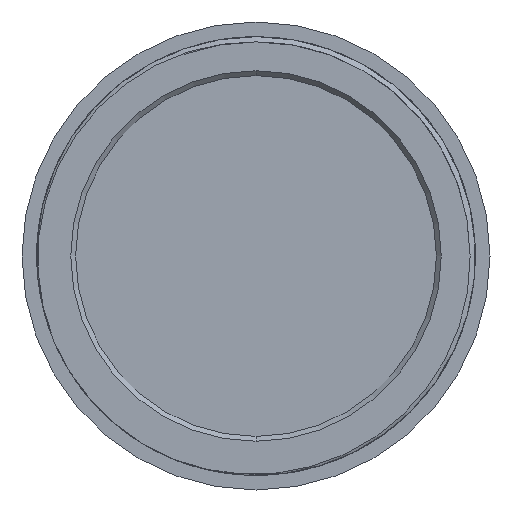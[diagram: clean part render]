
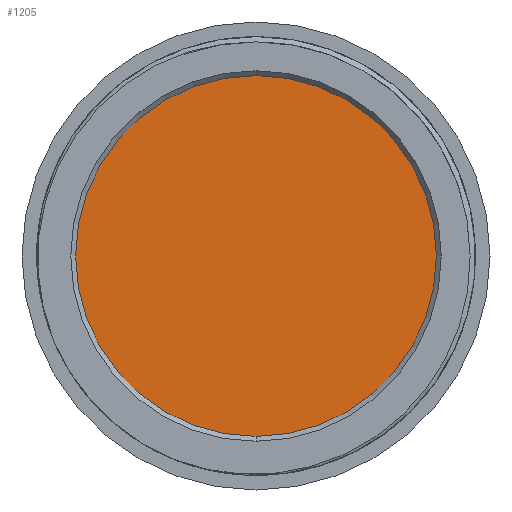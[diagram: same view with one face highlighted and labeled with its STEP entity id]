
A CAD part, front view. The second image highlights one B-rep face of the part: STEP entity #1205.
In plain terms, the highlighted planar face has unit normal (0, -1, 0).
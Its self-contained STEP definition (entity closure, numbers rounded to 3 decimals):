
#139 = AXIS2_PLACEMENT_3D ( 'NONE', #507, #2545, #1613 ) ;
#199 = PLANE ( 'NONE',  #897 ) ;
#507 = CARTESIAN_POINT ( 'NONE',  ( 0., 2.3, 0. ) ) ;
#510 = AXIS2_PLACEMENT_3D ( 'NONE', #732, #1042, #1400 ) ;
#732 = CARTESIAN_POINT ( 'NONE',  ( 0., 2.3, 0. ) ) ;
#897 = AXIS2_PLACEMENT_3D ( 'NONE', #2652, #2436, #1080 ) ;
#1042 = DIRECTION ( 'NONE',  ( 0., 1., 0. ) ) ;
#1053 = CARTESIAN_POINT ( 'NONE',  ( 0., 2.3, -10. ) ) ;
#1080 = DIRECTION ( 'NONE',  ( 0., 0., 1. ) ) ;
#1129 = CARTESIAN_POINT ( 'NONE',  ( 0., 2.3, 10. ) ) ;
#1144 = FACE_OUTER_BOUND ( 'NONE', #2053, .T. ) ;
#1205 = ADVANCED_FACE ( 'NONE', ( #1144 ), #199, .F. ) ;
#1311 = VERTEX_POINT ( 'NONE', #1129 ) ;
#1400 = DIRECTION ( 'NONE',  ( 0., 0., 1. ) ) ;
#1410 = CIRCLE ( 'NONE', #139, 10. ) ;
#1567 = ORIENTED_EDGE ( 'NONE', *, *, #1969, .F. ) ;
#1613 = DIRECTION ( 'NONE',  ( 0., 0., 1. ) ) ;
#1969 = EDGE_CURVE ( 'NONE', #1311, #2149, #2120, .T. ) ;
#1980 = ORIENTED_EDGE ( 'NONE', *, *, #2589, .F. ) ;
#2053 = EDGE_LOOP ( 'NONE', ( #1980, #1567 ) ) ;
#2120 = CIRCLE ( 'NONE', #510, 10. ) ;
#2149 = VERTEX_POINT ( 'NONE', #1053 ) ;
#2436 = DIRECTION ( 'NONE',  ( 0., 1., 0. ) ) ;
#2545 = DIRECTION ( 'NONE',  ( 0., 1., 0. ) ) ;
#2589 = EDGE_CURVE ( 'NONE', #2149, #1311, #1410, .T. ) ;
#2652 = CARTESIAN_POINT ( 'NONE',  ( 0., 2.3, 0. ) ) ;
